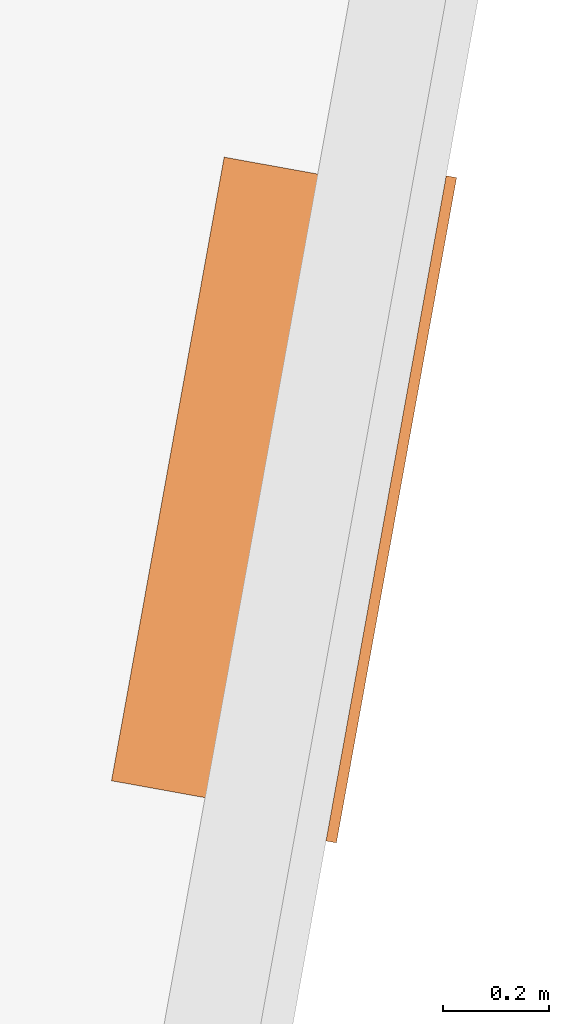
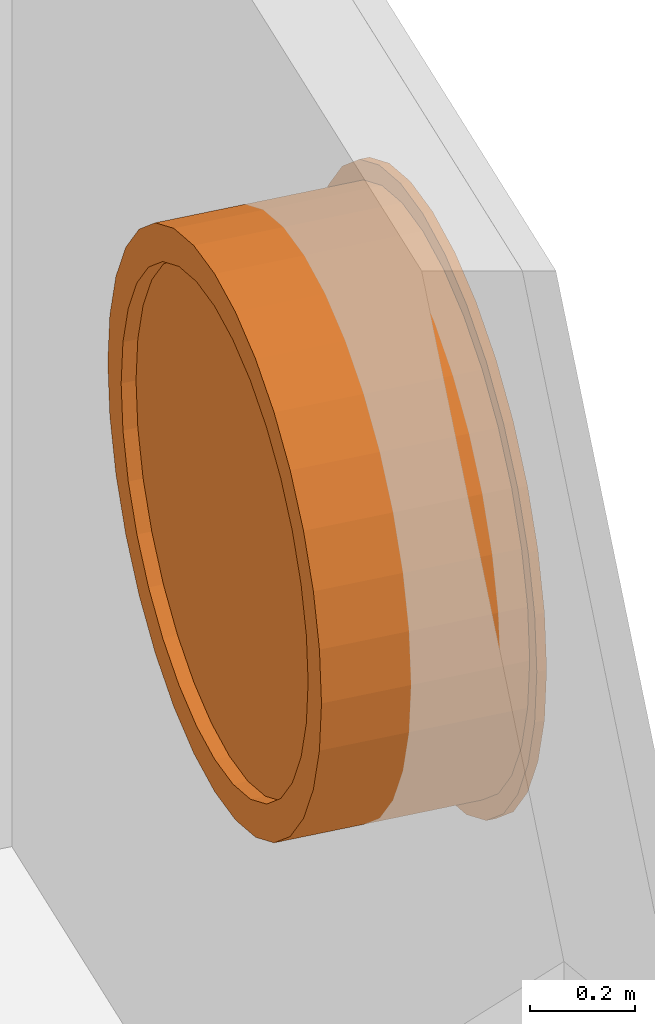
# One storey, part 61 of 79: 1 proxy.
"""IFC2X3 building model written with IfcOpenShell, lengths in metres."""

from ifc_helpers import new_model, entity, si_unit, converted_unit, derived_unit, money_unit, direction, frame, origin_with_axes, place, context, subcontext, project, spatial, open_shell, faceted_brep, surface_model, material, type_object, element, save


model = new_model("IFC2X3")

# Units and contexts
model_context = context("Model", 3, precision=1e-05, world=origin_with_axes(), true_north=direction((0.0, 1.0)))
body_context = subcontext(model_context, "Body", "Model", "MODEL_VIEW")
ifc_project = project(units=[si_unit("LENGTHUNIT", "METRE"), si_unit("AREAUNIT", "SQUARE_METRE"), si_unit("VOLUMEUNIT", "CUBIC_METRE"), converted_unit("PLANEANGLEUNIT", "DEGREE", entity("IfcPlaneAngleMeasure", 0.0174532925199), si_unit("PLANEANGLEUNIT", "RADIAN"), dimensions=[0, 0, 0, 0, 0, 0, 0]), money_unit("CHF"), converted_unit("TIMEUNIT", "Year", entity("IfcTimeMeasure", 31556926.0), si_unit("TIMEUNIT", "SECOND"), dimensions=[0, 0, 1, 0, 0, 0, 0]), si_unit("MASSUNIT", "GRAM", prefix="KILO"), si_unit("THERMODYNAMICTEMPERATUREUNIT", "DEGREE_CELSIUS"), si_unit("LUMINOUSINTENSITYUNIT", "LUMEN"), si_unit("ENERGYUNIT", "JOULE", prefix="MEGA"), derived_unit("THERMALCONDUCTANCEUNIT", [(si_unit("POWERUNIT", "WATT"), 1), (si_unit("LENGTHUNIT", "METRE"), -1), (si_unit("THERMODYNAMICTEMPERATUREUNIT", "KELVIN"), -1)]), derived_unit("SPECIFICHEATCAPACITYUNIT", [(si_unit("ENERGYUNIT", "JOULE"), 1), (si_unit("MASSUNIT", "GRAM", prefix="KILO"), -1), (si_unit("THERMODYNAMICTEMPERATUREUNIT", "KELVIN"), -1)]), derived_unit("MASSDENSITYUNIT", [(si_unit("MASSUNIT", "GRAM", prefix="KILO"), 1), (si_unit("VOLUMEUNIT", "CUBIC_METRE"), -1)])], contexts=[model_context])

# Site, building, storey
site_placement = place(None, frame((0.0, 0.0, 0.0), z_axis=(0.0, 0.0, 1.0), x_axis=(-0.177771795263, -0.984071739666, 0.0)))
site = spatial("IfcSite", under=ifc_project, at=site_placement, Name="Site", CompositionType="ELEMENT")
building_placement = place(site_placement, origin_with_axes())
building = spatial("IfcBuilding", under=site, at=building_placement, Name="Bâtiment", CompositionType="ELEMENT")
storey_placement = place(building_placement, origin_with_axes())
storey = spatial("IfcBuildingStorey", under=building, at=storey_placement, Name="RDC", CompositionType="ELEMENT", Elevation=0.0)

# Proxy
ifc_material = material(Name="Matériau de construction IFC")
building_element_proxy_type = type_object("IfcBuildingElementProxyType", Name="Fenêtre ronde 21", PredefinedType="NOTDEFINED")
proxy_placement = place(storey_placement, frame((139.054841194, -148.267150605, 1.25), z_axis=(0.0, 0.0, 1.0), x_axis=(1.0, 8.49117809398e-08, 0.0)))
element("IfcBuildingElementProxy", 1, at=proxy_placement, inside=storey, type_object=building_element_proxy_type, material=ifc_material, Name="oeil-de-boeuf", context=body_context, shape_type="SurfaceModel", body=[
    faceted_brep([(0.599999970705, -0.284999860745, 0.0), (0.6, 0.0600001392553, 0.0), (0.71705419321, 0.0600001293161, 0.0115288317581), (0.717054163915, -0.284999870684, 0.0115288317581), (0.482945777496, -0.284999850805, 0.0115288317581), (0.48294580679, 0.0600001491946, 0.0115288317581), (0.370389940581, 0.0600001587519, 0.0456722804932), (0.266657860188, 0.06000016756, 0.101118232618), (0.175735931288, 0.0600001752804, 0.175735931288), (0.101118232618, 0.0600001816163, 0.266657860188), (0.0456722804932, 0.0600001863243, 0.370389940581), (0.0115288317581, 0.0600001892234, 0.48294580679), (0.0, 0.0600001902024, 0.6), (0.0115288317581, 0.0600001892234, 0.71705419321), (0.0456722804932, 0.0600001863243, 0.829610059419), (0.101118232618, 0.0600001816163, 0.933342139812), (0.175735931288, 0.0600001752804, 1.02426406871), (0.266657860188, 0.06000016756, 1.09888176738), (0.370389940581, 0.0600001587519, 1.15432771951), (0.48294580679, 0.0600001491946, 1.18847116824), (0.6, 0.0600001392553, 1.2), (0.71705419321, 0.0600001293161, 1.18847116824), (0.829610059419, 0.0600001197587, 1.15432771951), (0.933342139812, 0.0600001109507, 1.09888176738), (1.02426406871, 0.0600001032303, 1.02426406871), (1.09888176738, 0.0600000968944, 0.933342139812), (1.15432771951, 0.0600000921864, 0.829610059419), (1.18847116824, 0.0600000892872, 0.71705419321), (1.2, 0.0600000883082, 0.6), (1.18847116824, 0.0600000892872, 0.48294580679), (1.15432771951, 0.0600000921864, 0.370389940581), (1.09888176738, 0.0600000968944, 0.266657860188), (1.02426406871, 0.0600001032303, 0.175735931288), (0.933342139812, 0.0600001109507, 0.101118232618), (0.829610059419, 0.0600001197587, 0.0456722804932), (0.6, 0.0600001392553, 0.02), (0.713152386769, 0.0600001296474, 0.0311445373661), (0.821956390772, 0.0600001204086, 0.0641498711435), (0.922230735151, 0.0600001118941, 0.117747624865), (1.01012193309, 0.0600001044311, 0.189878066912), (1.08225237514, 0.0600000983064, 0.277769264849), (1.13585012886, 0.0600000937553, 0.378043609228), (1.16885546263, 0.0600000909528, 0.486847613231), (1.18, 0.0600000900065, 0.6), (1.16885546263, 0.0600000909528, 0.713152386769), (1.13585012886, 0.0600000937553, 0.821956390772), (1.08225237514, 0.0600000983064, 0.922230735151), (1.01012193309, 0.0600001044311, 1.01012193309), (0.922230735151, 0.0600001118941, 1.08225237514), (0.821956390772, 0.0600001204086, 1.13585012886), (0.713152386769, 0.0600001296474, 1.16885546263), (0.6, 0.0600001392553, 1.18), (0.486847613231, 0.0600001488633, 1.16885546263), (0.378043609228, 0.060000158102, 1.13585012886), (0.277769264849, 0.0600001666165, 1.08225237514), (0.189878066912, 0.0600001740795, 1.01012193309), (0.117747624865, 0.0600001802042, 0.922230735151), (0.0641498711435, 0.0600001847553, 0.821956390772), (0.0311445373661, 0.0600001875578, 0.713152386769), (0.02, 0.0600001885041, 0.6), (0.0311445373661, 0.0600001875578, 0.486847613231), (0.0641498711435, 0.0600001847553, 0.378043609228), (0.117747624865, 0.0600001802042, 0.277769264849), (0.189878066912, 0.0600001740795, 0.189878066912), (0.277769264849, 0.0600001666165, 0.117747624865), (0.378043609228, 0.060000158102, 0.0641498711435), (0.486847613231, 0.0600001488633, 0.0311445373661), (0.829610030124, -0.284999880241, 0.0456722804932), (0.933342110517, -0.284999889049, 0.101118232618), (1.02426403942, -0.28499989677, 0.175735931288), (1.09888173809, -0.284999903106, 0.266657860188), (1.15432769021, -0.284999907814, 0.370389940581), (1.18847113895, -0.284999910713, 0.48294580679), (1.19999997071, -0.284999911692, 0.6), (1.18847113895, -0.284999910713, 0.71705419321), (1.15432769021, -0.284999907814, 0.829610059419), (1.09888173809, -0.284999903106, 0.933342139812), (1.02426403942, -0.28499989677, 1.02426406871), (0.933342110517, -0.284999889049, 1.09888176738), (0.829610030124, -0.284999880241, 1.15432771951), (0.717054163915, -0.284999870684, 1.18847116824), (0.599999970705, -0.284999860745, 1.2), (0.482945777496, -0.284999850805, 1.18847116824), (0.370389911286, -0.284999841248, 1.15432771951), (0.266657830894, -0.28499983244, 1.09888176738), (0.175735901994, -0.28499982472, 1.02426406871), (0.101118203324, -0.284999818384, 0.933342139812), (0.0456722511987, -0.284999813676, 0.829610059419), (0.0115288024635, -0.284999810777, 0.71705419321), (-2.929457e-08, -0.284999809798, 0.6), (0.0115288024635, -0.284999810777, 0.48294580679), (0.0456722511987, -0.284999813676, 0.370389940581), (0.101118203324, -0.284999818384, 0.266657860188), (0.175735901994, -0.28499982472, 0.175735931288), (0.266657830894, -0.28499983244, 0.101118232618), (0.370389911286, -0.284999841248, 0.0456722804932), (0.599999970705, -0.284999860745, 0.02), (0.486847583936, -0.284999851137, 0.0311445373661), (0.378043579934, -0.284999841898, 0.0641498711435), (0.277769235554, -0.284999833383, 0.117747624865), (0.189878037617, -0.28499982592, 0.189878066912), (0.11774759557, -0.284999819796, 0.277769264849), (0.0641498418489, -0.284999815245, 0.378043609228), (0.0311445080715, -0.284999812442, 0.486847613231), (0.0199999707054, -0.284999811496, 0.6), (0.0311445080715, -0.284999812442, 0.713152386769), (0.0641498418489, -0.284999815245, 0.821956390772), (0.11774759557, -0.284999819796, 0.922230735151), (0.189878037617, -0.28499982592, 1.01012193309), (0.277769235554, -0.284999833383, 1.08225237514), (0.378043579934, -0.284999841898, 1.13585012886), (0.486847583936, -0.284999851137, 1.16885546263), (0.599999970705, -0.284999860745, 1.18), (0.713152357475, -0.284999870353, 1.16885546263), (0.821956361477, -0.284999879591, 1.13585012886), (0.922230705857, -0.284999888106, 1.08225237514), (1.01012190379, -0.284999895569, 1.01012193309), (1.08225234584, -0.284999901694, 0.922230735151), (1.13585009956, -0.284999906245, 0.821956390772), (1.16885543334, -0.284999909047, 0.713152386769), (1.17999997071, -0.284999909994, 0.6), (1.16885543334, -0.284999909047, 0.486847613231), (1.13585009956, -0.284999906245, 0.378043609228), (1.08225234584, -0.284999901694, 0.277769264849), (1.01012190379, -0.284999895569, 0.189878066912), (0.922230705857, -0.284999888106, 0.117747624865), (0.821956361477, -0.284999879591, 0.0641498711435), (0.713152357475, -0.284999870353, 0.0311445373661)], [[[0, 1, 2, 3]], [[4, 5, 1, 0]], [[1, 5, 6, 7, 8, 9, 10, 11, 12, 13, 14, 15, 16, 17, 18, 19, 20, 21, 22, 23, 24, 25, 26, 27, 28, 29, 30, 31, 32, 33, 34, 2], [35, 36, 37, 38, 39, 40, 41, 42, 43, 44, 45, 46, 47, 48, 49, 50, 51, 52, 53, 54, 55, 56, 57, 58, 59, 60, 61, 62, 63, 64, 65, 66]], [[3, 2, 34, 67]], [[0, 3, 67, 68, 69, 70, 71, 72, 73, 74, 75, 76, 77, 78, 79, 80, 81, 82, 83, 84, 85, 86, 87, 88, 89, 90, 91, 92, 93, 94, 95, 4], [96, 97, 98, 99, 100, 101, 102, 103, 104, 105, 106, 107, 108, 109, 110, 111, 112, 113, 114, 115, 116, 117, 118, 119, 120, 121, 122, 123, 124, 125, 126, 127]], [[95, 6, 5, 4]], [[94, 7, 6, 95]], [[93, 8, 7, 94]], [[92, 9, 8, 93]], [[91, 10, 9, 92]], [[90, 11, 10, 91]], [[89, 12, 11, 90]], [[88, 13, 12, 89]], [[87, 14, 13, 88]], [[86, 15, 14, 87]], [[85, 16, 15, 86]], [[84, 17, 16, 85]], [[83, 18, 17, 84]], [[82, 19, 18, 83]], [[81, 20, 19, 82]], [[80, 21, 20, 81]], [[79, 22, 21, 80]], [[78, 23, 22, 79]], [[77, 24, 23, 78]], [[76, 25, 24, 77]], [[75, 26, 25, 76]], [[74, 27, 26, 75]], [[73, 28, 27, 74]], [[72, 29, 28, 73]], [[71, 30, 29, 72]], [[70, 31, 30, 71]], [[69, 32, 31, 70]], [[68, 33, 32, 69]], [[67, 34, 33, 68]], [[127, 36, 35, 96]], [[126, 37, 36, 127]], [[125, 38, 37, 126]], [[124, 39, 38, 125]], [[123, 40, 39, 124]], [[122, 41, 40, 123]], [[121, 42, 41, 122]], [[120, 43, 42, 121]], [[119, 44, 43, 120]], [[118, 45, 44, 119]], [[117, 46, 45, 118]], [[116, 47, 46, 117]], [[115, 48, 47, 116]], [[114, 49, 48, 115]], [[113, 50, 49, 114]], [[112, 51, 50, 113]], [[111, 52, 51, 112]], [[110, 53, 52, 111]], [[109, 54, 53, 110]], [[108, 55, 54, 109]], [[107, 56, 55, 108]], [[106, 57, 56, 107]], [[105, 58, 57, 106]], [[104, 59, 58, 105]], [[103, 60, 59, 104]], [[102, 61, 60, 103]], [[101, 62, 61, 102]], [[100, 63, 62, 101]], [[99, 64, 63, 100]], [[98, 65, 64, 99]], [[97, 66, 65, 98]], [[96, 35, 66, 97]]]),
    faceted_brep([(0.6, 0.0600001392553, -0.04), (0.600000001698, 0.0800001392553, -0.04), (0.724857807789, 0.0800001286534, -0.0277025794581), (0.72485780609, 0.0600001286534, -0.0277025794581), (0.47514219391, 0.0600001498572, -0.0277025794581), (0.475142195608, 0.0800001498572, -0.0277025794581), (0.355082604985, 0.0800001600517, 0.00871709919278), (0.244435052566, 0.080000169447, 0.0678594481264), (0.147451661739, 0.080000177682, 0.147451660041), (0.0678594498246, 0.0800001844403, 0.244435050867), (0.00871710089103, 0.0800001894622, 0.355082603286), (-0.0277025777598, 0.0800001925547, 0.47514219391), (-0.0399999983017, 0.0800001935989, 0.6), (-0.0277025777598, 0.0800001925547, 0.72485780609), (0.00871710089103, 0.0800001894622, 0.844917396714), (0.0678594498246, 0.0800001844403, 0.955564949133), (0.147451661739, 0.080000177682, 1.05254833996), (0.244435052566, 0.080000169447, 1.13214055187), (0.355082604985, 0.0800001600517, 1.19128290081), (0.475142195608, 0.0800001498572, 1.22770257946), (0.600000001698, 0.0800001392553, 1.24), (0.724857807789, 0.0800001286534, 1.22770257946), (0.844917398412, 0.080000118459, 1.19128290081), (0.955564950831, 0.0800001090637, 1.13214055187), (1.05254834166, 0.0800001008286, 1.05254833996), (1.13214055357, 0.0800000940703, 0.955564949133), (1.19128290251, 0.0800000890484, 0.844917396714), (1.22770258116, 0.080000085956, 0.72485780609), (1.2400000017, 0.0800000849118, 0.6), (1.22770258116, 0.080000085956, 0.47514219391), (1.19128290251, 0.0800000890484, 0.355082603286), (1.13214055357, 0.0800000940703, 0.244435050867), (1.05254834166, 0.0800001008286, 0.147451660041), (0.955564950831, 0.0800001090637, 0.0678594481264), (0.844917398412, 0.080000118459, 0.00871709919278), (0.600000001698, 0.0800001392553, 0.02), (0.713152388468, 0.0800001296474, 0.0311445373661), (0.82195639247, 0.0800001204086, 0.0641498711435), (0.92223073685, 0.0800001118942, 0.117747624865), (1.01012193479, 0.0800001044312, 0.189878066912), (1.08225237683, 0.0800000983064, 0.277769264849), (1.13585013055, 0.0800000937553, 0.378043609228), (1.16885546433, 0.0800000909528, 0.486847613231), (1.1800000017, 0.0800000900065, 0.6), (1.16885546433, 0.0800000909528, 0.713152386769), (1.13585013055, 0.0800000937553, 0.821956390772), (1.08225237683, 0.0800000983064, 0.922230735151), (1.01012193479, 0.0800001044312, 1.01012193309), (0.92223073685, 0.0800001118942, 1.08225237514), (0.82195639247, 0.0800001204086, 1.13585012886), (0.713152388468, 0.0800001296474, 1.16885546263), (0.600000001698, 0.0800001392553, 1.18), (0.486847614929, 0.0800001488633, 1.16885546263), (0.378043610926, 0.0800001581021, 1.13585012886), (0.277769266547, 0.0800001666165, 1.08225237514), (0.18987806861, 0.0800001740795, 1.01012193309), (0.117747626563, 0.0800001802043, 0.922230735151), (0.0641498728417, 0.0800001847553, 0.821956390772), (0.0311445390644, 0.0800001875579, 0.713152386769), (0.0200000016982, 0.0800001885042, 0.6), (0.0311445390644, 0.0800001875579, 0.486847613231), (0.0641498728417, 0.0800001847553, 0.378043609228), (0.117747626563, 0.0800001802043, 0.277769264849), (0.18987806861, 0.0800001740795, 0.189878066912), (0.277769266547, 0.0800001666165, 0.117747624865), (0.378043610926, 0.0800001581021, 0.0641498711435), (0.486847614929, 0.0800001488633, 0.0311445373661), (0.844917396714, 0.060000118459, 0.00871709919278), (0.955564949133, 0.0600001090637, 0.0678594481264), (1.05254833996, 0.0600001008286, 0.147451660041), (1.13214055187, 0.0600000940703, 0.244435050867), (1.19128290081, 0.0600000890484, 0.355082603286), (1.22770257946, 0.060000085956, 0.47514219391), (1.24, 0.0600000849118, 0.6), (1.22770257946, 0.060000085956, 0.72485780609), (1.19128290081, 0.0600000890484, 0.844917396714), (1.13214055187, 0.0600000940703, 0.955564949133), (1.05254833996, 0.0600001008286, 1.05254833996), (0.955564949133, 0.0600001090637, 1.13214055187), (0.844917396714, 0.060000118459, 1.19128290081), (0.72485780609, 0.0600001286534, 1.22770257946), (0.6, 0.0600001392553, 1.24), (0.47514219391, 0.0600001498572, 1.22770257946), (0.355082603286, 0.0600001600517, 1.19128290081), (0.244435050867, 0.060000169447, 1.13214055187), (0.147451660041, 0.060000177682, 1.05254833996), (0.0678594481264, 0.0600001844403, 0.955564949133), (0.00871709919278, 0.0600001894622, 0.844917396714), (-0.0277025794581, 0.0600001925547, 0.72485780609), (-0.04, 0.0600001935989, 0.6), (-0.0277025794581, 0.0600001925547, 0.47514219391), (0.00871709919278, 0.0600001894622, 0.355082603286), (0.0678594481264, 0.0600001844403, 0.244435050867), (0.147451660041, 0.060000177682, 0.147451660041), (0.244435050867, 0.060000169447, 0.0678594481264), (0.355082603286, 0.0600001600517, 0.00871709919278), (0.6, 0.0600001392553, 0.02), (0.486847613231, 0.0600001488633, 0.0311445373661), (0.378043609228, 0.060000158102, 0.0641498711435), (0.277769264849, 0.0600001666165, 0.117747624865), (0.189878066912, 0.0600001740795, 0.189878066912), (0.117747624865, 0.0600001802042, 0.277769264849), (0.0641498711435, 0.0600001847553, 0.378043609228), (0.0311445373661, 0.0600001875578, 0.486847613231), (0.02, 0.0600001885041, 0.6), (0.0311445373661, 0.0600001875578, 0.713152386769), (0.0641498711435, 0.0600001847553, 0.821956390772), (0.117747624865, 0.0600001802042, 0.922230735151), (0.189878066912, 0.0600001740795, 1.01012193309), (0.277769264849, 0.0600001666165, 1.08225237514), (0.378043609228, 0.060000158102, 1.13585012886), (0.486847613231, 0.0600001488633, 1.16885546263), (0.6, 0.0600001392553, 1.18), (0.713152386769, 0.0600001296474, 1.16885546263), (0.821956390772, 0.0600001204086, 1.13585012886), (0.922230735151, 0.0600001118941, 1.08225237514), (1.01012193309, 0.0600001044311, 1.01012193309), (1.08225237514, 0.0600000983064, 0.922230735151), (1.13585012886, 0.0600000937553, 0.821956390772), (1.16885546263, 0.0600000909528, 0.713152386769), (1.18, 0.0600000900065, 0.6), (1.16885546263, 0.0600000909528, 0.486847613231), (1.13585012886, 0.0600000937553, 0.378043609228), (1.08225237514, 0.0600000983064, 0.277769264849), (1.01012193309, 0.0600001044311, 0.189878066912), (0.922230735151, 0.0600001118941, 0.117747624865), (0.821956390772, 0.0600001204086, 0.0641498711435), (0.713152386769, 0.0600001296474, 0.0311445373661)], [[[0, 1, 2, 3]], [[4, 5, 1, 0]], [[1, 5, 6, 7, 8, 9, 10, 11, 12, 13, 14, 15, 16, 17, 18, 19, 20, 21, 22, 23, 24, 25, 26, 27, 28, 29, 30, 31, 32, 33, 34, 2], [35, 36, 37, 38, 39, 40, 41, 42, 43, 44, 45, 46, 47, 48, 49, 50, 51, 52, 53, 54, 55, 56, 57, 58, 59, 60, 61, 62, 63, 64, 65, 66]], [[3, 2, 34, 67]], [[0, 3, 67, 68, 69, 70, 71, 72, 73, 74, 75, 76, 77, 78, 79, 80, 81, 82, 83, 84, 85, 86, 87, 88, 89, 90, 91, 92, 93, 94, 95, 4], [96, 97, 98, 99, 100, 101, 102, 103, 104, 105, 106, 107, 108, 109, 110, 111, 112, 113, 114, 115, 116, 117, 118, 119, 120, 121, 122, 123, 124, 125, 126, 127]], [[95, 6, 5, 4]], [[94, 7, 6, 95]], [[93, 8, 7, 94]], [[92, 9, 8, 93]], [[91, 10, 9, 92]], [[90, 11, 10, 91]], [[89, 12, 11, 90]], [[88, 13, 12, 89]], [[87, 14, 13, 88]], [[86, 15, 14, 87]], [[85, 16, 15, 86]], [[84, 17, 16, 85]], [[83, 18, 17, 84]], [[82, 19, 18, 83]], [[81, 20, 19, 82]], [[80, 21, 20, 81]], [[79, 22, 21, 80]], [[78, 23, 22, 79]], [[77, 24, 23, 78]], [[76, 25, 24, 77]], [[75, 26, 25, 76]], [[74, 27, 26, 75]], [[73, 28, 27, 74]], [[72, 29, 28, 73]], [[71, 30, 29, 72]], [[70, 31, 30, 71]], [[69, 32, 31, 70]], [[68, 33, 32, 69]], [[67, 34, 33, 68]], [[127, 36, 35, 96]], [[126, 37, 36, 127]], [[125, 38, 37, 126]], [[124, 39, 38, 125]], [[123, 40, 39, 124]], [[122, 41, 40, 123]], [[121, 42, 41, 122]], [[120, 43, 42, 121]], [[119, 44, 43, 120]], [[118, 45, 44, 119]], [[117, 46, 45, 118]], [[116, 47, 46, 117]], [[115, 48, 47, 116]], [[114, 49, 48, 115]], [[113, 50, 49, 114]], [[112, 51, 50, 113]], [[111, 52, 51, 112]], [[110, 53, 52, 111]], [[109, 54, 53, 110]], [[108, 55, 54, 109]], [[107, 56, 55, 108]], [[106, 57, 56, 107]], [[105, 58, 57, 106]], [[104, 59, 58, 105]], [[103, 60, 59, 104]], [[102, 61, 60, 103]], [[101, 62, 61, 102]], [[100, 63, 62, 101]], [[99, 64, 63, 100]], [[98, 65, 64, 99]], [[97, 66, 65, 98]], [[96, 35, 66, 97]]]),
    faceted_brep([(1.19999996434, -0.359999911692, 0.6), (1.19999997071, -0.284999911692, 0.6), (1.18847113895, -0.284999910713, 0.71705419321), (1.18847113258, -0.359999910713, 0.71705419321), (1.18847113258, -0.359999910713, 0.48294580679), (1.18847113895, -0.284999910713, 0.48294580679), (1.15432769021, -0.284999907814, 0.370389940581), (1.09888173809, -0.284999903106, 0.266657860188), (1.02426403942, -0.28499989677, 0.175735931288), (0.933342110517, -0.284999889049, 0.101118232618), (0.829610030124, -0.284999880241, 0.0456722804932), (0.717054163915, -0.284999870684, 0.0115288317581), (0.599999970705, -0.284999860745, 0.0), (0.482945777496, -0.284999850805, 0.0115288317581), (0.370389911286, -0.284999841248, 0.0456722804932), (0.266657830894, -0.28499983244, 0.101118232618), (0.175735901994, -0.28499982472, 0.175735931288), (0.101118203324, -0.284999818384, 0.266657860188), (0.0456722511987, -0.284999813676, 0.370389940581), (0.0115288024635, -0.284999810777, 0.48294580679), (-2.929457e-08, -0.284999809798, 0.6), (0.0115288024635, -0.284999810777, 0.71705419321), (0.0456722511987, -0.284999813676, 0.829610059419), (0.101118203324, -0.284999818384, 0.933342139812), (0.175735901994, -0.28499982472, 1.02426406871), (0.266657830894, -0.28499983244, 1.09888176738), (0.370389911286, -0.284999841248, 1.15432771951), (0.482945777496, -0.284999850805, 1.18847116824), (0.599999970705, -0.284999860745, 1.2), (0.717054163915, -0.284999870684, 1.18847116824), (0.829610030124, -0.284999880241, 1.15432771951), (0.933342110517, -0.284999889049, 1.09888176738), (1.02426403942, -0.28499989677, 1.02426406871), (1.09888173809, -0.284999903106, 0.933342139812), (1.15432769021, -0.284999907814, 0.829610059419), (1.12499997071, -0.284999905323, 0.6), (1.11491224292, -0.284999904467, 0.702422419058), (1.08503672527, -0.28499990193, 0.800908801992), (1.03652151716, -0.284999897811, 0.891674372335), (0.971231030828, -0.284999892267, 0.971231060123), (0.891674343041, -0.284999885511, 1.03652154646), (0.800908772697, -0.284999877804, 1.08503675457), (0.702422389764, -0.284999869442, 1.11491227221), (0.599999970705, -0.284999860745, 1.125), (0.497577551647, -0.284999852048, 1.11491227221), (0.399091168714, -0.284999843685, 1.08503675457), (0.30832559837, -0.284999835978, 1.03652154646), (0.228768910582, -0.284999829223, 0.971231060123), (0.163478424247, -0.284999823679, 0.891674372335), (0.114963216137, -0.284999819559, 0.800908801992), (0.0850876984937, -0.284999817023, 0.702422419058), (0.0749999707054, -0.284999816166, 0.6), (0.0850876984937, -0.284999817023, 0.497577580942), (0.114963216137, -0.284999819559, 0.399091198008), (0.163478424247, -0.284999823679, 0.308325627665), (0.228768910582, -0.284999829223, 0.228768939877), (0.30832559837, -0.284999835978, 0.163478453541), (0.399091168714, -0.284999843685, 0.114963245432), (0.497577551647, -0.284999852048, 0.0850877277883), (0.599999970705, -0.284999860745, 0.075), (0.702422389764, -0.284999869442, 0.0850877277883), (0.800908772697, -0.284999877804, 0.114963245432), (0.891674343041, -0.284999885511, 0.163478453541), (0.971231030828, -0.284999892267, 0.228768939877), (1.03652151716, -0.284999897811, 0.308325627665), (1.08503672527, -0.28499990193, 0.399091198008), (1.11491224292, -0.284999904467, 0.497577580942), (1.15432768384, -0.359999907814, 0.829610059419), (1.09888173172, -0.359999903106, 0.933342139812), (1.02426403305, -0.35999989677, 1.02426406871), (0.933342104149, -0.359999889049, 1.09888176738), (0.829610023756, -0.359999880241, 1.15432771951), (0.717054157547, -0.359999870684, 1.18847116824), (0.599999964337, -0.359999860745, 1.2), (0.482945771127, -0.359999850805, 1.18847116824), (0.370389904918, -0.359999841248, 1.15432771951), (0.266657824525, -0.35999983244, 1.09888176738), (0.175735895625, -0.35999982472, 1.02426406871), (0.101118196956, -0.359999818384, 0.933342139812), (0.0456722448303, -0.359999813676, 0.829610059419), (0.0115287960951, -0.359999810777, 0.71705419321), (-3.566294e-08, -0.359999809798, 0.6), (0.0115287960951, -0.359999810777, 0.48294580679), (0.0456722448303, -0.359999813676, 0.370389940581), (0.101118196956, -0.359999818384, 0.266657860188), (0.175735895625, -0.35999982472, 0.175735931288), (0.266657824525, -0.35999983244, 0.101118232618), (0.370389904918, -0.359999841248, 0.0456722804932), (0.482945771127, -0.359999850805, 0.0115288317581), (0.599999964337, -0.359999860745, 0.0), (0.717054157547, -0.359999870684, 0.0115288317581), (0.829610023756, -0.359999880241, 0.0456722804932), (0.933342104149, -0.359999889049, 0.101118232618), (1.02426403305, -0.35999989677, 0.175735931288), (1.09888173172, -0.359999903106, 0.266657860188), (1.15432768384, -0.359999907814, 0.370389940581), (1.12499996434, -0.359999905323, 0.6), (1.11491223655, -0.359999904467, 0.497577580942), (1.08503671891, -0.35999990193, 0.399091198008), (1.0365215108, -0.35999989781, 0.308325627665), (0.97123102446, -0.359999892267, 0.228768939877), (0.891674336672, -0.359999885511, 0.163478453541), (0.800908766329, -0.359999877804, 0.114963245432), (0.702422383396, -0.359999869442, 0.0850877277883), (0.599999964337, -0.359999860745, 0.075), (0.497577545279, -0.359999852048, 0.0850877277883), (0.399091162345, -0.359999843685, 0.114963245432), (0.308325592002, -0.359999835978, 0.163478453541), (0.228768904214, -0.359999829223, 0.228768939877), (0.163478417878, -0.359999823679, 0.308325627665), (0.114963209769, -0.359999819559, 0.399091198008), (0.0850876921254, -0.359999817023, 0.497577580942), (0.0749999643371, -0.359999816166, 0.6), (0.0850876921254, -0.359999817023, 0.702422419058), (0.114963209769, -0.359999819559, 0.800908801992), (0.163478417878, -0.359999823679, 0.891674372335), (0.228768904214, -0.359999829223, 0.971231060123), (0.308325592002, -0.359999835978, 1.03652154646), (0.399091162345, -0.359999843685, 1.08503675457), (0.497577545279, -0.359999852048, 1.11491227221), (0.599999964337, -0.359999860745, 1.125), (0.702422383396, -0.359999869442, 1.11491227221), (0.800908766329, -0.359999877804, 1.08503675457), (0.891674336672, -0.359999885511, 1.03652154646), (0.97123102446, -0.359999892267, 0.971231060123), (1.0365215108, -0.35999989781, 0.891674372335), (1.08503671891, -0.35999990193, 0.800908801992), (1.11491223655, -0.359999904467, 0.702422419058)], [[[0, 1, 2, 3]], [[4, 5, 1, 0]], [[1, 5, 6, 7, 8, 9, 10, 11, 12, 13, 14, 15, 16, 17, 18, 19, 20, 21, 22, 23, 24, 25, 26, 27, 28, 29, 30, 31, 32, 33, 34, 2], [35, 36, 37, 38, 39, 40, 41, 42, 43, 44, 45, 46, 47, 48, 49, 50, 51, 52, 53, 54, 55, 56, 57, 58, 59, 60, 61, 62, 63, 64, 65, 66]], [[3, 2, 34, 67]], [[0, 3, 67, 68, 69, 70, 71, 72, 73, 74, 75, 76, 77, 78, 79, 80, 81, 82, 83, 84, 85, 86, 87, 88, 89, 90, 91, 92, 93, 94, 95, 4], [96, 97, 98, 99, 100, 101, 102, 103, 104, 105, 106, 107, 108, 109, 110, 111, 112, 113, 114, 115, 116, 117, 118, 119, 120, 121, 122, 123, 124, 125, 126, 127]], [[95, 6, 5, 4]], [[94, 7, 6, 95]], [[93, 8, 7, 94]], [[92, 9, 8, 93]], [[91, 10, 9, 92]], [[90, 11, 10, 91]], [[89, 12, 11, 90]], [[88, 13, 12, 89]], [[87, 14, 13, 88]], [[86, 15, 14, 87]], [[85, 16, 15, 86]], [[84, 17, 16, 85]], [[83, 18, 17, 84]], [[82, 19, 18, 83]], [[81, 20, 19, 82]], [[80, 21, 20, 81]], [[79, 22, 21, 80]], [[78, 23, 22, 79]], [[77, 24, 23, 78]], [[76, 25, 24, 77]], [[75, 26, 25, 76]], [[74, 27, 26, 75]], [[73, 28, 27, 74]], [[72, 29, 28, 73]], [[71, 30, 29, 72]], [[70, 31, 30, 71]], [[69, 32, 31, 70]], [[68, 33, 32, 69]], [[67, 34, 33, 68]], [[127, 36, 35, 96]], [[126, 37, 36, 127]], [[125, 38, 37, 126]], [[124, 39, 38, 125]], [[123, 40, 39, 124]], [[122, 41, 40, 123]], [[121, 42, 41, 122]], [[120, 43, 42, 121]], [[119, 44, 43, 120]], [[118, 45, 44, 119]], [[117, 46, 45, 118]], [[116, 47, 46, 117]], [[115, 48, 47, 116]], [[114, 49, 48, 115]], [[113, 50, 49, 114]], [[112, 51, 50, 113]], [[111, 52, 51, 112]], [[110, 53, 52, 111]], [[109, 54, 53, 110]], [[108, 55, 54, 109]], [[107, 56, 55, 108]], [[106, 57, 56, 107]], [[105, 58, 57, 106]], [[104, 59, 58, 105]], [[103, 60, 59, 104]], [[102, 61, 60, 103]], [[101, 62, 61, 102]], [[100, 63, 62, 101]], [[99, 64, 63, 100]], [[98, 65, 64, 99]], [[97, 66, 65, 98]], [[96, 35, 66, 97]]]),
    surface_model("IfcShellBasedSurfaceModel", [(0.599999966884, -0.329999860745, 0.075), (0.702422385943, -0.329999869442, 0.0850877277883), (0.800908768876, -0.329999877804, 0.114963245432), (0.89167433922, -0.329999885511, 0.163478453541), (0.971231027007, -0.329999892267, 0.228768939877), (1.03652151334, -0.32999989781, 0.308325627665), (1.08503672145, -0.32999990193, 0.399091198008), (1.1149122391, -0.329999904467, 0.497577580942), (1.12499996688, -0.329999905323, 0.6), (1.1149122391, -0.329999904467, 0.702422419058), (1.08503672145, -0.32999990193, 0.800908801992), (1.03652151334, -0.32999989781, 0.891674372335), (0.971231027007, -0.329999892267, 0.971231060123), (0.89167433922, -0.329999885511, 1.03652154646), (0.800908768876, -0.329999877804, 1.08503675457), (0.702422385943, -0.329999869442, 1.11491227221), (0.599999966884, -0.329999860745, 1.125), (0.497577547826, -0.329999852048, 1.11491227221), (0.399091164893, -0.329999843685, 1.08503675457), (0.308325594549, -0.329999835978, 1.03652154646), (0.228768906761, -0.329999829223, 0.971231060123), (0.163478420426, -0.329999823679, 0.891674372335), (0.114963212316, -0.329999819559, 0.800908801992), (0.0850876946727, -0.329999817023, 0.702422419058), (0.0749999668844, -0.329999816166, 0.6), (0.0850876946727, -0.329999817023, 0.497577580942), (0.114963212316, -0.329999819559, 0.399091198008), (0.163478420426, -0.329999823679, 0.308325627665), (0.228768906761, -0.329999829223, 0.228768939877), (0.308325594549, -0.329999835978, 0.163478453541), (0.399091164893, -0.329999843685, 0.114963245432), (0.497577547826, -0.329999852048, 0.0850877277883)], [open_shell([[[0, 1, 2, 3, 4, 5, 6, 7, 8, 9, 10, 11, 12, 13, 14, 15, 16, 17, 18, 19, 20, 21, 22, 23, 24, 25, 26, 27, 28, 29, 30, 31]]])]),
    surface_model("IfcShellBasedSurfaceModel", [(0.599999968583, -0.309999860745, 0.075), (0.497577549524, -0.309999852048, 0.0850877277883), (0.399091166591, -0.309999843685, 0.114963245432), (0.308325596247, -0.309999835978, 0.163478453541), (0.22876890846, -0.309999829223, 0.228768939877), (0.163478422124, -0.309999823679, 0.308325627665), (0.114963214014, -0.309999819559, 0.399091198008), (0.0850876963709, -0.309999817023, 0.497577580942), (0.0749999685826, -0.309999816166, 0.6), (0.0850876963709, -0.309999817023, 0.702422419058), (0.114963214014, -0.309999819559, 0.800908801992), (0.163478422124, -0.309999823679, 0.891674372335), (0.22876890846, -0.309999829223, 0.971231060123), (0.308325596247, -0.309999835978, 1.03652154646), (0.399091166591, -0.309999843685, 1.08503675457), (0.497577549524, -0.309999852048, 1.11491227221), (0.599999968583, -0.309999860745, 1.125), (0.702422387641, -0.309999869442, 1.11491227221), (0.800908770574, -0.309999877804, 1.08503675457), (0.891674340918, -0.309999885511, 1.03652154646), (0.971231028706, -0.309999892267, 0.971231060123), (1.03652151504, -0.309999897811, 0.891674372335), (1.08503672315, -0.30999990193, 0.800908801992), (1.11491224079, -0.309999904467, 0.702422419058), (1.12499996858, -0.309999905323, 0.6), (1.11491224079, -0.309999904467, 0.497577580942), (1.08503672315, -0.30999990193, 0.399091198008), (1.03652151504, -0.309999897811, 0.308325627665), (0.971231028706, -0.309999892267, 0.228768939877), (0.891674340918, -0.309999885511, 0.163478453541), (0.800908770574, -0.309999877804, 0.114963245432), (0.702422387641, -0.309999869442, 0.0850877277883)], [open_shell([[[0, 1, 2, 3, 4, 5, 6, 7, 8, 9, 10, 11, 12, 13, 14, 15, 16, 17, 18, 19, 20, 21, 22, 23, 24, 25, 26, 27, 28, 29, 30, 31]]])]),
])

save(model, "model.ifc")
